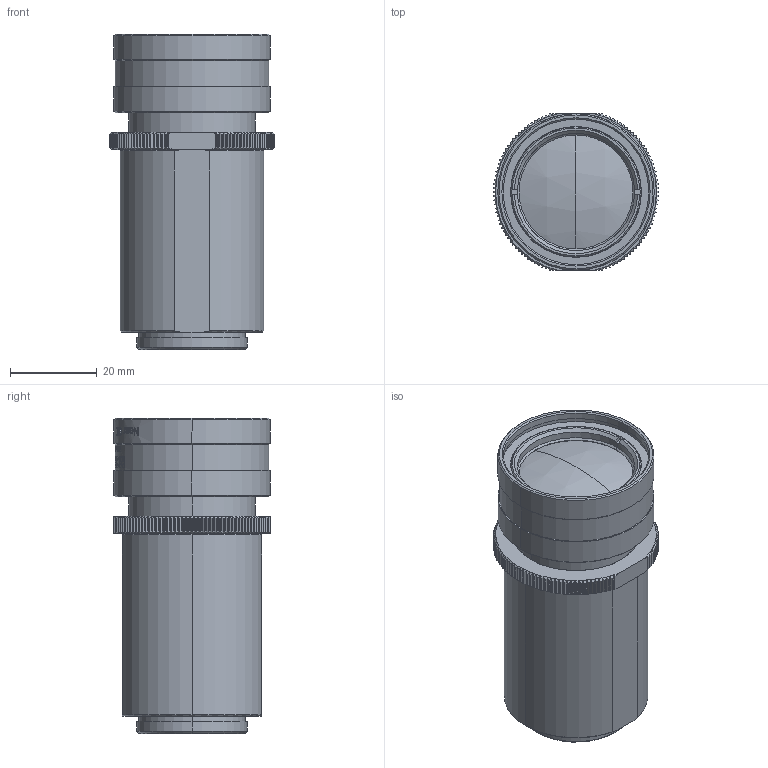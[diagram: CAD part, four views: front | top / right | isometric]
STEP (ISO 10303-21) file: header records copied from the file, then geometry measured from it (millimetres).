
FILE_DESCRIPTION (( 'STEP AP203' ), '1' );
FILE_NAME ('A23659_ML-MC7528-18C-G.STEP', '2024-04-22T08:32:41', ( '' ), ( '' ), 'SwSTEP 2.0', 'SolidWorks 2023', '' );
FILE_SCHEMA (( 'CONFIG_CONTROL_DESIGN' ));
Length unit declared in the file: millimetre
Products named in the file (1): A23659_ML-MC7528-18C-G
Bounding box: 38 x 36 x 72.49 mm (x, y, z)
Volume: 57370.6 mm3; surface area: 11878.9 mm2
Topology: 1 solids, 1 shells, 1387 faces, 3895 edges, 2586 vertices
Faces by surface type: bspline 451, cylinder 442, plane 440, cone 50, sphere 4
Entity records: 66046 total; most frequent: CARTESIAN_POINT 36264, ORIENTED_EDGE 7790, EDGE_CURVE 3895, DIRECTION 3590, B_SPLINE_CURVE_WITH_KNOTS 2587, VERTEX_POINT 2586, EDGE_LOOP 1463, ADVANCED_FACE 1387
